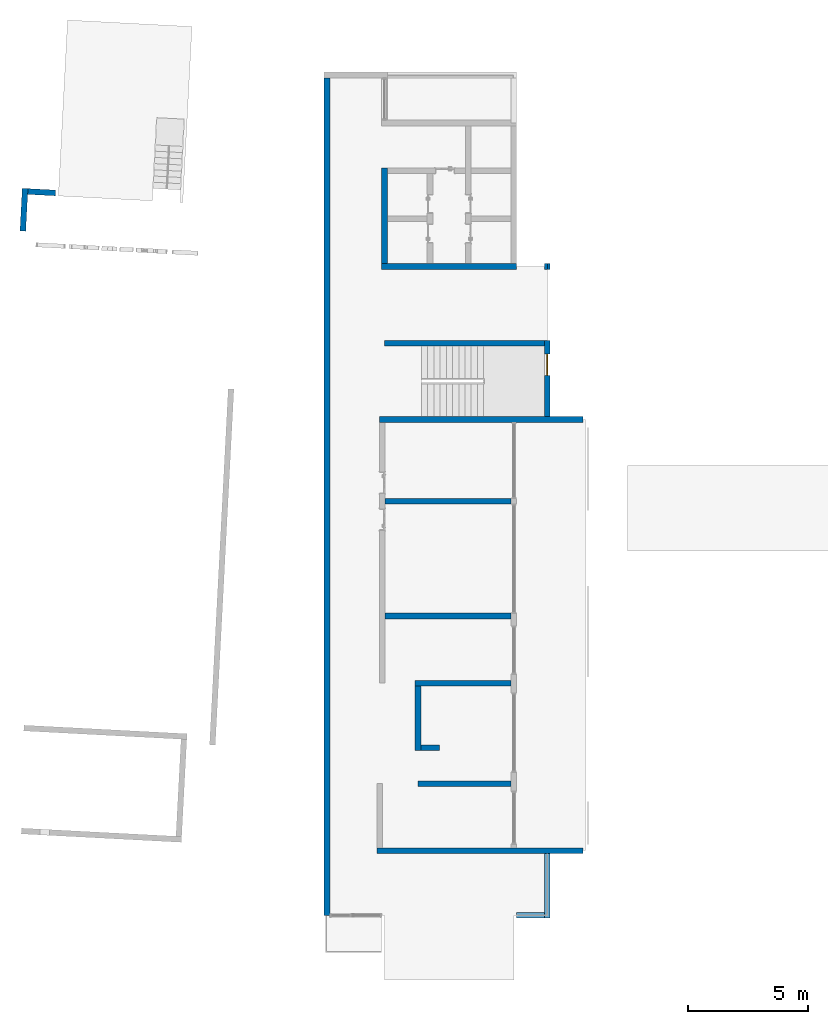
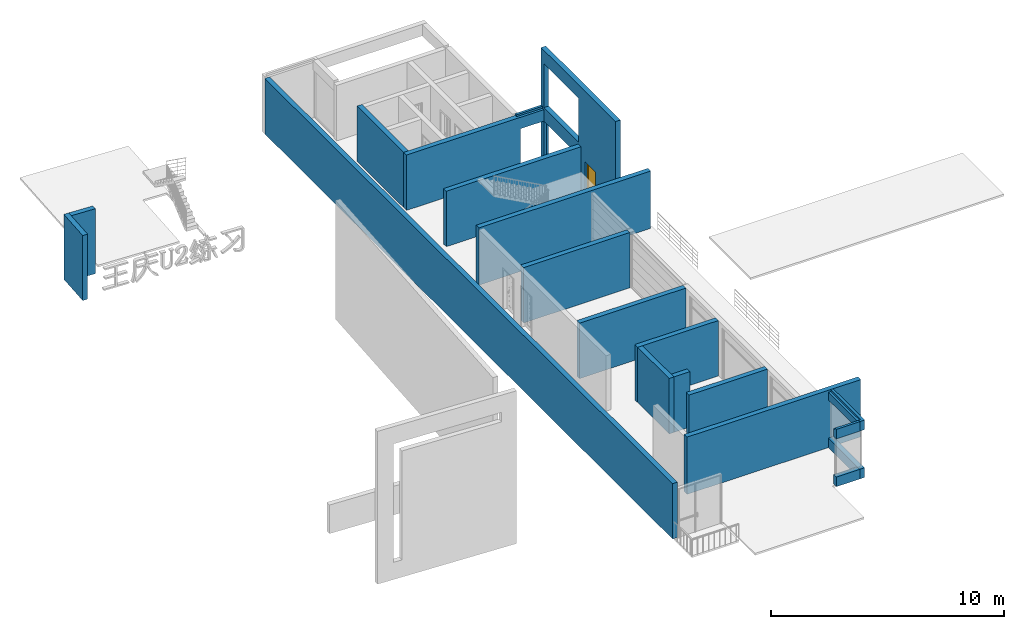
# One storey, part 6 of 16: 17 walls, 1 window, 8 openings.
"""IFC2X3 building model written with IfcOpenShell, lengths in millimetres."""

import ifcopenshell
import ifcopenshell.guid

model = None  # the IFC model being written
_history = None  # IfcOwnerHistory: only IFC2X3 demands one
_inside = {}  # id of a spatial element -> (the spatial element, [elements in it])
_under = {}  # id of a project, library or spatial element -> (it, [spatial elements below it])
_declared = {}  # id of a project -> (the project, [libraries it declares])
_typed = {}  # id of a type object -> (the type object, [elements of that type])
_made_of = {}  # id of a material, layer set ... -> (it, [elements and type objects made of it])


def new_model(schema):
    """Start an empty IFC model of exactly this schema.

    Asked for "IFC4X3", IfcOpenShell would pick the latest addendum, in which some entities
    have other attributes; the version numbers below select the first issue.
    IFC2X3 requires an IfcOwnerHistory on every rooted entity: one is made here for all.
    """
    global model, _history
    if schema == "IFC4X3":
        model = ifcopenshell.file(schema_version=(4, 3, 0, 0))
    else:
        model = ifcopenshell.file(schema=schema)
    _inside.clear()
    _under.clear()
    _declared.clear()
    _typed.clear()
    _made_of.clear()
    _history = None
    if model.schema == "IFC2X3":
        org = make("IfcOrganization", Name="unknown")
        user = make(
            "IfcPersonAndOrganization",
            ThePerson=make("IfcPerson", FamilyName="unknown"),
            TheOrganization=org,
        )
        app = make(
            "IfcApplication",
            ApplicationDeveloper=org,
            Version="unknown",
            ApplicationFullName="unknown",
            ApplicationIdentifier="unknown",
        )
        _history = make(
            "IfcOwnerHistory",
            OwningUser=user,
            OwningApplication=app,
            ChangeAction="ADDED",
            CreationDate=0,
        )
    return model


def make(cls, **values):
    """One entity of the class cls with the attributes given. An attribute that is None is left unset."""
    return model.create_entity(
        cls, **{name: value for name, value in values.items() if value is not None}
    )


def entity(cls, *values):
    """Any entity or typed value of the class cls, its attributes in the order of the schema. None: left unset."""
    e = model.create_entity(cls)
    for i, value in enumerate(values):
        if value is not None:
            e[i] = value
    return e


def rooted(cls, **values):
    """An entity with a GlobalId (a new one), such as an element, a storey or a relation."""
    return make(cls, GlobalId=ifcopenshell.guid.new(), OwnerHistory=_history, **values)


def si_unit(unit_type, name, prefix=None):
    """IfcSIUnit, for example si_unit("LENGTHUNIT", "METRE", prefix="MILLI")."""
    return make("IfcSIUnit", UnitType=unit_type, Prefix=prefix, Name=name)


def converted_unit(unit_type, name, factor, base, dimensions=None, offset=None):
    """IfcConversionBasedUnit, such as the inch: factor (a typed value) times the base unit."""
    return make(
        "IfcConversionBasedUnit"
        if offset is None
        else "IfcConversionBasedUnitWithOffset",
        ConversionOffset=offset,
        Dimensions=None
        if dimensions is None
        else entity("IfcDimensionalExponents", *dimensions),
        UnitType=unit_type,
        Name=name,
        ConversionFactor=make(
            "IfcMeasureWithUnit", ValueComponent=factor, UnitComponent=base
        ),
    )


def derived_unit(unit_type, elements):
    """IfcDerivedUnit: a product of units, each with its exponent."""
    return make(
        "IfcDerivedUnit",
        Elements=[
            make("IfcDerivedUnitElement", Unit=unit, Exponent=power)
            for unit, power in elements
        ],
        UnitType=unit_type,
    )


def assignment(units):
    """IfcUnitAssignment: the units of a project."""
    return None if units is None else make("IfcUnitAssignment", Units=units)


def point(xyz):
    """IfcCartesianPoint."""
    return None if xyz is None else make("IfcCartesianPoint", Coordinates=xyz)


def direction(xyz):
    """IfcDirection."""
    return None if xyz is None else make("IfcDirection", DirectionRatios=xyz)


def frame(location, z_axis=None, x_axis=None):
    """IfcAxis2Placement3D, a coordinate frame: its origin and axes. An axis left out is left unset."""
    return make(
        "IfcAxis2Placement3D",
        Location=point(location),
        Axis=direction(z_axis),
        RefDirection=direction(x_axis),
    )


def frame_2d(location, x_axis=None):
    """IfcAxis2Placement2D, a coordinate frame in the plane: its origin and x axis."""
    return make(
        "IfcAxis2Placement2D", Location=point(location), RefDirection=direction(x_axis)
    )


def origin():
    """The frame at (0, 0, 0) with its axes left unset."""
    return frame((0.0, 0.0, 0.0))


def place(relative_to, where):
    """IfcLocalPlacement: puts the frame where relative to a parent placement (None: the world)."""
    return make(
        "IfcLocalPlacement", PlacementRelTo=relative_to, RelativePlacement=where
    )


def context(
    kind, dimensions, precision=None, world=None, true_north=None, identifier=None
):
    """IfcGeometricRepresentationContext, for example the 3D "Model" context."""
    return make(
        "IfcGeometricRepresentationContext",
        ContextIdentifier=identifier,
        ContextType=kind,
        CoordinateSpaceDimension=dimensions,
        Precision=precision,
        WorldCoordinateSystem=world,
        TrueNorth=true_north,
    )


def subcontext(parent, identifier, kind, view, scale=None):
    """IfcGeometricRepresentationSubContext, for example "Body" below "Model"."""
    return make(
        "IfcGeometricRepresentationSubContext",
        ContextIdentifier=identifier,
        ContextType=kind,
        ParentContext=parent,
        TargetScale=scale,
        TargetView=view,
    )


def project(units=None, contexts=None):
    """IfcProject with its units and contexts."""
    return rooted(
        "IfcProject",
        Name="project",
        RepresentationContexts=contexts,
        UnitsInContext=assignment(units),
    )


def spatial(cls, under=None, at=None, **own):
    """A site, building, storey or space (cls), placed at a placement, below another one or the project."""
    s = rooted(cls, ObjectPlacement=at, **own)
    if under is not None:
        _under.setdefault(under.id(), (under, []))[1].append(s)
    return s


def polyline(points):
    """IfcPolyline through the points."""
    return make("IfcPolyline", Points=[point(p) for p in points])


def profile(cls, at=None, kind="AREA", **sizes):
    """A parametric profile (cls). Its sizes go by their IFC names, for example OverallWidth=200.0."""
    return make(cls, ProfileType=kind, Position=at, **sizes)


def rectangle(**sizes):
    """IfcRectangleProfileDef."""
    return profile("IfcRectangleProfileDef", **sizes)


def outline(outer, holes=None, kind="AREA"):
    """IfcArbitraryClosedProfileDef: a profile drawn as a closed curve; with holes, ...WithVoids."""
    if holes is None:
        return make("IfcArbitraryClosedProfileDef", ProfileType=kind, OuterCurve=outer)
    return make(
        "IfcArbitraryProfileDefWithVoids",
        ProfileType=kind,
        OuterCurve=outer,
        InnerCurves=holes,
    )


def extrude(swept, where, along, depth):
    """IfcExtrudedAreaSolid: the profile swept, set in the frame where, extruded along a direction by depth."""
    return make(
        "IfcExtrudedAreaSolid",
        SweptArea=swept,
        Position=where,
        ExtrudedDirection=direction(along),
        Depth=depth,
    )


def clip(a, b, op="DIFFERENCE"):
    """IfcBooleanClippingResult: the solid a cut by the half space b."""
    return make(
        "IfcBooleanClippingResult", Operator=op, FirstOperand=a, SecondOperand=b
    )


def bounded_halfspace(plane, agree, where, boundary):
    """IfcPolygonalBoundedHalfSpace: a half space limited to a polygon's prism."""
    return make(
        "IfcPolygonalBoundedHalfSpace",
        BaseSurface=make("IfcPlane", Position=plane),
        AgreementFlag=agree,
        Position=where,
        PolygonalBoundary=boundary,
    )


def faces_of(points, faces, orient=None, outer=None):
    """IfcFace entities. A face is a list of loops; a loop is a list of indices into points, from 0.

    orient and outer hold one flag for each loop. By default every Orientation is true, the
    first loop of a face is its IfcFaceOuterBound and the others are IfcFaceBound.
    """
    made = []
    for i, loops in enumerate(faces):
        bounds = []
        for j, loop in enumerate(loops):
            is_outer = j == 0 if outer is None else outer[i][j]
            bounds.append(
                make(
                    "IfcFaceOuterBound" if is_outer else "IfcFaceBound",
                    Bound=make("IfcPolyLoop", Polygon=[points[k] for k in loop]),
                    Orientation=True if orient is None else orient[i][j],
                )
            )
        made.append(make("IfcFace", Bounds=bounds))
    return made


def faceted_brep(points, faces, orient=None, outer=None, voids=None):
    """IfcFacetedBrep: a solid bounded by flat faces; with voids (closed shells), ...WithVoids."""
    shared = [point(p) for p in points]
    hull = make("IfcClosedShell", CfsFaces=faces_of(shared, faces, orient, outer))
    if voids is None:
        return make("IfcFacetedBrep", Outer=hull)
    return make(
        "IfcFacetedBrepWithVoids",
        Outer=hull,
        Voids=[
            make(cls, CfsFaces=faces_of(shared, fs, o, b)) for cls, fs, o, b in voids
        ],
    )


def shape(context_of_items, identifier, shape_type, items):
    """IfcShapeRepresentation: the items that make up one representation, for example the "Body"."""
    return make(
        "IfcShapeRepresentation",
        ContextOfItems=context_of_items,
        RepresentationIdentifier=identifier,
        RepresentationType=shape_type,
        Items=items,
    )


def source(mapping_origin, context_of_items, identifier, shape_type, items):
    """IfcRepresentationMap: a shape defined once, which mapped items show again and again."""
    return make(
        "IfcRepresentationMap",
        MappingOrigin=mapping_origin,
        MappedRepresentation=shape(context_of_items, identifier, shape_type, items),
    )


def transform(
    local_origin,
    x_axis=None,
    y_axis=None,
    z_axis=None,
    scale=None,
    scale2=None,
    scale3=None,
    uniform=True,
):
    """IfcCartesianTransformationOperator3D, or its non-uniform kind. x_axis, y_axis, z_axis: its Axis1, 2, 3."""
    if uniform:
        return make(
            "IfcCartesianTransformationOperator3D",
            Axis1=direction(x_axis),
            Axis2=direction(y_axis),
            LocalOrigin=point(local_origin),
            Scale=scale,
            Axis3=direction(z_axis),
        )
    return make(
        "IfcCartesianTransformationOperator3DnonUniform",
        Axis1=direction(x_axis),
        Axis2=direction(y_axis),
        LocalOrigin=point(local_origin),
        Scale=scale,
        Axis3=direction(z_axis),
        Scale2=scale2,
        Scale3=scale3,
    )


def mapped(mapping_source, mapping_target):
    """IfcMappedItem: shows the shape of a source again, moved by a transform."""
    return make(
        "IfcMappedItem", MappingSource=mapping_source, MappingTarget=mapping_target
    )


def material(Name=None, Category=None):
    """IfcMaterial."""
    return make("IfcMaterial", Name=Name, Category=Category)


def material_list(materials):
    """IfcMaterialList."""
    return make("IfcMaterialList", Materials=materials)


def layer(
    of_material, thickness, ventilated=None, Name=None, Category=None, Priority=None
):
    """IfcMaterialLayer: one layer of a wall or slab, of a material (None: an air gap)."""
    return make(
        "IfcMaterialLayer",
        Material=of_material,
        LayerThickness=thickness,
        IsVentilated=ventilated,
        Name=Name,
        Category=Category,
        Priority=Priority,
    )


def layer_set(layers, Name=None):
    """IfcMaterialLayerSet."""
    return make("IfcMaterialLayerSet", MaterialLayers=layers, LayerSetName=Name)


def layer_usage(for_layer_set, set_direction, sense, offset, extent=None):
    """IfcMaterialLayerSetUsage: how a layer set lies in its element."""
    return make(
        "IfcMaterialLayerSetUsage",
        ForLayerSet=for_layer_set,
        LayerSetDirection=set_direction,
        DirectionSense=sense,
        OffsetFromReferenceLine=offset,
        ReferenceExtent=extent,
    )


def made_of(thing, what):
    """Note that an element or type object is made of a material, layer set ...; save() writes the relation."""
    if what is not None:
        _made_of.setdefault(what.id(), (what, []))[1].append(thing)
    return thing


def type_object(cls, material=None, **own):
    """A type object (cls), such as IfcWallType, which elements share."""
    return made_of(rooted(cls, **own), material)


def type_shapes(of_type, sources):
    """Give a type object the sources (RepresentationMaps) that its elements show as mapped items."""
    of_type.RepresentationMaps = sources


def element(
    cls,
    number,
    at=None,
    inside=None,
    cuts=None,
    type_object=None,
    material=None,
    context=None,
    identifier="Body",
    shape_type=None,
    held_by="IfcProductDefinitionShape",
    body=None,
    shapes=None,
    **own,
):
    """One element of the class cls, such as IfcWall. Its Tag is "e" and its number.

    at: its placement. inside: the storey or other place that contains it. cuts: it is an
    opening in that element (IfcRelVoidsElement). A single representation is given by context,
    identifier, shape_type and body (its items); several are given by shapes. held_by: the class
    of the entity that holds the representations. save() writes the other relations.
    """
    e = rooted(cls, Tag="e%d" % number, ObjectPlacement=at, **own)
    if body is not None:
        shapes = [shape(context, identifier, shape_type, body)]
    if shapes is not None:
        e.Representation = make(held_by, Representations=shapes)
    if inside is not None:
        _inside.setdefault(inside.id(), (inside, []))[1].append(e)
    if cuts is not None:
        rooted(
            "IfcRelVoidsElement", RelatingBuildingElement=cuts, RelatedOpeningElement=e
        )
    if type_object is not None:
        _typed.setdefault(type_object.id(), (type_object, []))[1].append(e)
    return made_of(e, material)


def fill(opening, filler):
    """IfcRelFillsElement: the door or window that sits in an opening."""
    return rooted(
        "IfcRelFillsElement",
        RelatingOpeningElement=opening,
        RelatedBuildingElement=filler,
    )


def aggregate(whole, parts):
    """IfcRelAggregates: a whole, such as a stair, and the parts it consists of."""
    return rooted("IfcRelAggregates", RelatingObject=whole, RelatedObjects=parts)


def save(model, path):
    """Write the relations noted so far, then the file.

    IfcRelAggregates (storeys below a building ...), IfcRelContainedInSpatialStructure (elements
    in a storey), IfcRelDefinesByType, IfcRelAssociatesMaterial and IfcRelDeclares: one each for
    every whole, place, type object, material and project.
    """
    for whole, parts in _under.values():
        aggregate(whole, parts)
    for where, things in _inside.values():
        rooted(
            "IfcRelContainedInSpatialStructure",
            RelatedElements=things,
            RelatingStructure=where,
        )
    for kind, things in _typed.values():
        rooted("IfcRelDefinesByType", RelatedObjects=things, RelatingType=kind)
    for what, things in _made_of.values():
        rooted("IfcRelAssociatesMaterial", RelatedObjects=things, RelatingMaterial=what)
    for by, libraries in _declared.values():
        rooted("IfcRelDeclares", RelatingContext=by, RelatedDefinitions=libraries)
    model.write(path)


model = new_model("IFC2X3")

# Units and contexts
model_context = context("Model", 3, precision=0.01, world=origin(), true_north=direction((6.12303176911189e-17, 1.0)))
body_context = subcontext(model_context, "Body", "Model", "MODEL_VIEW")
ifc_project = project(units=[si_unit("LENGTHUNIT", "METRE", prefix="MILLI"), si_unit("AREAUNIT", "SQUARE_METRE"), si_unit("VOLUMEUNIT", "CUBIC_METRE"), converted_unit("PLANEANGLEUNIT", "DEGREE", entity("IfcRatioMeasure", 0.0174532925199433), si_unit("PLANEANGLEUNIT", "RADIAN"), dimensions=[0, 0, 0, 0, 0, 0, 0]), si_unit("MASSUNIT", "GRAM", prefix="KILO"), derived_unit("MASSDENSITYUNIT", [(si_unit("MASSUNIT", "GRAM", prefix="KILO"), 1), (si_unit("LENGTHUNIT", "METRE"), -3)]), si_unit("TIMEUNIT", "SECOND"), si_unit("FREQUENCYUNIT", "HERTZ"), si_unit("THERMODYNAMICTEMPERATUREUNIT", "DEGREE_CELSIUS"), derived_unit("THERMALTRANSMITTANCEUNIT", [(si_unit("MASSUNIT", "GRAM", prefix="KILO"), 1), (si_unit("THERMODYNAMICTEMPERATUREUNIT", "KELVIN"), -1), (si_unit("TIMEUNIT", "SECOND"), -3)]), derived_unit("VOLUMETRICFLOWRATEUNIT", [(si_unit("LENGTHUNIT", "METRE"), 3), (si_unit("TIMEUNIT", "SECOND"), -1)]), si_unit("ELECTRICCURRENTUNIT", "AMPERE"), si_unit("ELECTRICVOLTAGEUNIT", "VOLT"), si_unit("POWERUNIT", "WATT"), si_unit("FORCEUNIT", "NEWTON", prefix="KILO"), si_unit("ILLUMINANCEUNIT", "LUX"), si_unit("LUMINOUSFLUXUNIT", "LUMEN"), si_unit("LUMINOUSINTENSITYUNIT", "CANDELA"), derived_unit("USERDEFINED", [(si_unit("MASSUNIT", "GRAM", prefix="KILO"), -1), (si_unit("LENGTHUNIT", "METRE"), -2), (si_unit("TIMEUNIT", "SECOND"), 3), (si_unit("LUMINOUSFLUXUNIT", "LUMEN"), 1)]), derived_unit("LINEARVELOCITYUNIT", [(si_unit("LENGTHUNIT", "METRE"), 1), (si_unit("TIMEUNIT", "SECOND"), -1)]), si_unit("PRESSUREUNIT", "PASCAL"), derived_unit("USERDEFINED", [(si_unit("LENGTHUNIT", "METRE"), -2), (si_unit("MASSUNIT", "GRAM", prefix="KILO"), 1), (si_unit("TIMEUNIT", "SECOND"), -2)])], contexts=[model_context])

# Site, building, storey
site_placement = place(None, origin())
site = spatial("IfcSite", under=ifc_project, at=site_placement, Name="表面", CompositionType="ELEMENT")
building_placement = place(site_placement, origin())
building = spatial("IfcBuilding", under=site, at=building_placement, CompositionType="ELEMENT")
storey_placement = place(building_placement, frame((0.0, 0.0, 3000.0)))
storey = spatial("IfcBuildingStorey", under=building, at=storey_placement, Name="2F", CompositionType="ELEMENT", Elevation=3000.00000000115)

# Wall, opening
ifc_material_1 = material(Name="白色涂料")
ifc_layer_1 = layer(ifc_material_1, 10.0)
ifc_material_2 = material(Name="默认墙")
ifc_layer_2 = layer(ifc_material_2, 220.0)
ifc_layer_3 = layer(ifc_material_1, 10.0)
ifc_layer_set = layer_set([ifc_layer_1, ifc_layer_2, ifc_layer_3], Name="基本墙:粉刷墙240")
ifc_layer_usage_1 = layer_usage(ifc_layer_set, "AXIS2", "NEGATIVE", 120.0)
wall_type = type_object("IfcWallType", Name="基本墙:粉刷墙240", PredefinedType="STANDARD", material=ifc_layer_set)
wall_1_placement = place(storey_placement, frame((-5110.24991264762, -2316.868426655, 0.0), z_axis=(0.0, 0.0, 1.0), x_axis=(-1.0, 0.0, 0.0)))
wall_1 = element("IfcWallStandardCase", 1, at=wall_1_placement, inside=storey, type_object=wall_type, material=ifc_layer_usage_1, Name="基本墙:粉刷墙240", ObjectType="基本墙:粉刷墙240", context=body_context, shape_type="Clipping", body=[
    clip(clip(clip(clip(extrude(rectangle(XDim=7040.00000000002, YDim=240.0, at=frame_2d((3520.00000000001, 7.8159700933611e-14), x_axis=(-1.0, 0.0))), origin(), (0.0, 0.0, 1.0), 3000.0), bounded_halfspace(frame((1520.0, -120.0, 2900.0), z_axis=(0.0, 0.0, -1.0), x_axis=(0.0, 1.0, 0.0)), True, frame((1520.0, -120.0, 2900.0)), polyline([(0.0, 0.0), (1780.0, 0.0), (2020.0, 0.0), (3380.0, 0.0), (3620.0, 0.0), (5280.0, 0.0), (5520.0, 0.0), (5520.0, 240.0), (0.0, 240.0), (-1400.0, 240.0), (-1400.0, 120.0), (0.0, 120.0), (0.0, 0.0)]))), bounded_halfspace(frame((120.0, 120.0, 3000.0), z_axis=(0.0, 0.0, -1.0), x_axis=(0.0, -1.0, 0.0)), True, frame((120.0, 120.0, 3000.0)), polyline([(0.0, 0.0), (-120.0, 0.0), (-120.0, -120.0), (0.0, -120.0), (0.0, 0.0)]))), bounded_halfspace(frame((1520.0, -120.0, 3000.0), z_axis=(0.0, 0.0, -1.0), x_axis=(0.0, -1.0, 0.0)), True, frame((1520.0, -120.0, 3000.0)), polyline([(0.0, 0.0), (0.0, 120.0), (-1400.0, 120.0), (-1520.0, 120.0), (-1520.0, 0.0), (-1280.0, 0.0), (-120.0, 0.0), (0.0, 0.0)]))), bounded_halfspace(frame((1520.0, -120.0, 2900.0), z_axis=(0.0, 0.0, -1.0), x_axis=(0.0, 1.0, 0.0)), True, frame((1520.0, -120.0, 2900.0)), polyline([(0.0, 0.0), (1780.0, 0.0), (2020.0, 0.0), (3380.0, 0.0), (3620.0, 0.0), (5280.0, 0.0), (5520.0, 0.0), (5520.0, 240.0), (0.0, 240.0), (-1400.0, 240.0), (-1400.0, 120.0), (0.0, 120.0), (0.0, 0.0)]))),
])
opening_1_placement = place(wall_1_placement, origin())
element("IfcOpeningElement", 2, at=opening_1_placement, cuts=wall_1, Name="基本墙:粉刷墙240", ObjectType="Opening", context=body_context, shape_type="SweptSolid", body=[
    extrude(rectangle(XDim=4300.0, YDim=1280.00000000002, at=frame_2d((-5.6843418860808e-13, 0.0), x_axis=(0.0, 1.0))), frame((760.0, -272.4, 150.0), z_axis=(0.0, 1.0, 0.0), x_axis=(-1.0, 0.0, 0.0)), (0.0, 0.0, 1.0), 544.8),
])

# Wall
ifc_layer_usage_2 = layer_usage(ifc_layer_set, "AXIS2", "NEGATIVE", 120.0)
wall_2_placement = place(storey_placement, frame((-12030.2499126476, -2196.86842665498, 0.0), z_axis=(0.0, 0.0, 1.0), x_axis=(0.0, 1.0, 0.0)))
element("IfcWallStandardCase", 3, at=wall_2_placement, inside=storey, type_object=wall_type, material=ifc_layer_usage_2, Name="基本墙:粉刷墙240", ObjectType="基本墙:粉刷墙240", context=body_context, shape_type="Clipping", body=[
    clip(extrude(rectangle(XDim=4000.0, YDim=240.000000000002, at=frame_2d((2000.0, 0.0), x_axis=(-1.0, 0.0))), origin(), (0.0, 0.0, 1.0), 2900.0), bounded_halfspace(frame((0.0, -120.0, 2900.0), z_axis=(0.0, 0.0, -1.0), x_axis=(-1.0, 0.0, 0.0)), True, frame((0.0, -120.0, 2900.0)), polyline([(0.0, 0.0), (1760.0, 0.0), (2000.0, 0.0), (3760.0, 0.0), (4000.0, 0.0), (4000.0, 240.0), (0.0, 240.0), (0.0, 0.0)]))),
])

# Wall, openings, window
ifc_layer_usage_3 = layer_usage(ifc_layer_set, "AXIS2", "NEGATIVE", 120.0)
wall_3_placement = place(storey_placement, frame((-5230.24991264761, -2196.868426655, 0.0), z_axis=(0.0, 0.0, 1.0), x_axis=(0.0, -1.0, 0.0)))
wall_3 = element("IfcWallStandardCase", 4, at=wall_3_placement, inside=storey, type_object=wall_type, material=ifc_layer_usage_3, Name="基本墙:粉刷墙240", ObjectType="基本墙:粉刷墙240", context=body_context, shape_type="SweptSolid", body=[
    extrude(rectangle(XDim=6390.97748632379, YDim=240.0, at=frame_2d((3195.4887431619, -2.1316282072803e-14), x_axis=(1.0, 0.0))), origin(), (0.0, 0.0, 1.0), 6000.0),
])
opening_2_placement = place(wall_3_placement, origin())
element("IfcOpeningElement", 5, at=opening_2_placement, cuts=wall_3, Name="基本墙:粉刷墙240", ObjectType="Opening", context=body_context, shape_type="SweptSolid", body=[
    extrude(rectangle(XDim=4300.0, YDim=2960.0, at=frame_2d((0.0, 2.27373675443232e-13), x_axis=(1.0, 0.0))), frame((1720.0, -272.399999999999, 150.0), z_axis=(0.0, 1.0, 0.0), x_axis=(0.0, 0.0, 1.0)), (0.0, 0.0, 1.0), 544.8),
])
opening_3_placement = place(wall_3_placement, origin())
element("IfcOpeningElement", 6, at=opening_3_placement, cuts=wall_3, Name="基本墙:粉刷墙240", ObjectType="Opening", context=body_context, shape_type="SweptSolid", body=[
    extrude(rectangle(XDim=2300.0, YDim=240.0, at=frame_2d((0.0, 0.0), x_axis=(0.0, 1.0))), frame((120.0, -1280.0, 4250.0), z_axis=(0.0, 1.0, 0.0), x_axis=(1.0, 0.0, 0.0)), (0.0, 0.0, 1.0), 1160.0),
])
opening_4_placement = place(wall_3_placement, origin())
element("IfcOpeningElement", 7, at=opening_4_placement, cuts=wall_3, Name="基本墙:粉刷墙240", ObjectType="Opening", context=body_context, shape_type="SweptSolid", body=[
    extrude(rectangle(XDim=2300.0, YDim=2960.0, at=frame_2d((-5.6843418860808e-13, -3.41060513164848e-13), x_axis=(1.0, 0.0))), frame((1720.0, -272.399999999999, 4150.0), z_axis=(0.0, 1.0, 0.0), x_axis=(0.0, 0.0, 1.0)), (0.0, 0.0, 1.0), 544.8),
])
opening_5_placement = place(wall_3_placement, frame((3770.0, -120.0, 1.15487779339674e-09)))
opening_5 = element("IfcOpeningElement", 8, at=opening_5_placement, cuts=wall_3, Name="C0615:C0923:1", ObjectType="Opening", context=body_context, shape_type="SweptSolid", body=[
    extrude(rectangle(XDim=2300.0, YDim=900.0, at=frame_2d((1150.0, 450.0), x_axis=(1.0, 0.0))), frame((0.0, 0.0, 0.0), z_axis=(0.0, 1.0, 0.0), x_axis=(0.0, 0.0, 1.0)), (0.0, 0.0, 1.0), 240.0),
])
ifc_material_3 = material(Name="竖梃")
ifc_material_4 = material(Name="玻璃")
ifc_material_list_1 = material_list([ifc_material_3, ifc_material_4])
ifc_material_list_2 = material_list([ifc_material_3, ifc_material_4])
window_style = type_object("IfcWindowStyle", Name="C0923", ConstructionType="NOTDEFINED", OperationType="NOTDEFINED", ParameterTakesPrecedence=False, Sizeable=False, material=ifc_material_list_2)
shared_shape = source(origin(), body_context, "Body", "SweptSolid", [
    extrude(outline(polyline([(-1150.0, -450.0), (1150.0, -450.0), (1150.0, 450.0), (-1150.0, 450.0), (-1150.0, -450.0)]), holes=[polyline([(1090.0, -390.0), (-1090.0, -390.0), (-1090.0, 390.0), (1090.0, 390.0), (1090.0, -390.0)])]), frame((450.0, 86.6666666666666, 1150.0), z_axis=(0.0, 1.0, 0.0), x_axis=(0.0, 0.0, -1.0)), (0.0, 0.0, 1.0), 66.6666666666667),
    extrude(rectangle(XDim=27.7162458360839, YDim=779.999999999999, at=frame_2d((0.0, 2.8421709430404e-14), x_axis=(1.0, 0.0))), frame((450.0, 142.490721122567, 60.0), z_axis=(0.0, 0.0, 1.0), x_axis=(0.0, 1.0, 0.0)), (0.0, 0.0, 1.0), 2180.0),
])
type_shapes(window_style, [shared_shape])
window_placement = place(opening_5_placement, frame((0.0, 0.0, -1.15505827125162e-09)))
window = element("IfcWindow", 9, at=window_placement, inside=storey, type_object=window_style, material=ifc_material_list_1, Name="C0615:C0923", ObjectType="C0923", OverallHeight=2300.0, OverallWidth=900.0, context=body_context, shape_type="MappedRepresentation", body=[
    mapped(shared_shape, transform((0.0, 0.0, 0.0), scale=1.0)),
])
fill(opening_5, window)

# Walls
ifc_layer_usage_4 = layer_usage(ifc_layer_set, "AXIS2", "NEGATIVE", 120.0)
wall_4_placement = place(storey_placement, frame((-5350.24991264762, -5516.868426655, 0.0), z_axis=(0.0, 0.0, 1.0), x_axis=(-1.0, 0.0, 0.0)))
element("IfcWallStandardCase", 10, at=wall_4_placement, inside=storey, type_object=wall_type, material=ifc_layer_usage_4, Name="基本墙:粉刷墙240", ObjectType="基本墙:粉刷墙240", context=body_context, shape_type="Clipping", body=[
    clip(extrude(rectangle(XDim=6680.00000000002, YDim=240.0, at=frame_2d((3340.00000000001, -1.91846538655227e-13), x_axis=(-1.0, 0.0))), origin(), (0.0, 0.0, 1.0), 2900.0), bounded_halfspace(frame((0.0, -120.0, 2900.0), z_axis=(0.0, 0.0, -1.0), x_axis=(0.0, 1.0, 0.0)), True, frame((0.0, -120.0, 2900.0)), polyline([(0.0, 0.0), (6680.0, 0.0), (6680.0, 240.0), (0.0, 240.0), (0.0, 0.0)]))),
])
ifc_layer_usage_5 = layer_usage(ifc_layer_set, "AXIS2", "NEGATIVE", 120.0)
wall_5_placement = place(storey_placement, frame((-12250.2499126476, -8707.84591297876, 0.0)))
element("IfcWallStandardCase", 11, at=wall_5_placement, inside=storey, type_object=wall_type, material=ifc_layer_usage_5, Name="基本墙:粉刷墙240", ObjectType="基本墙:粉刷墙240", context=body_context, shape_type="SweptSolid", body=[
    extrude(rectangle(XDim=8500.0, YDim=240.0, at=frame_2d((4250.0, 0.0), x_axis=(-1.0, 0.0))), origin(), (0.0, 0.0, 1.0), 3000.0),
])
ifc_layer_usage_6 = layer_usage(ifc_layer_set, "AXIS2", "NEGATIVE", 120.0)
wall_6_placement = place(storey_placement, frame((-12010.2499126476, -12116.868426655, 0.0)))
element("IfcWallStandardCase", 12, at=wall_6_placement, inside=storey, type_object=wall_type, material=ifc_layer_usage_6, Name="基本墙:粉刷墙240", ObjectType="基本墙:粉刷墙240", context=body_context, shape_type="Clipping", body=[
    clip(extrude(rectangle(XDim=5260.0, YDim=240.000000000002, at=frame_2d((2630.0, -3.83693077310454e-13), x_axis=(-1.0, 0.0))), origin(), (0.0, 0.0, 1.0), 2900.0), bounded_halfspace(frame((0.0, -120.0, 2900.0), z_axis=(0.0, 0.0, -1.0), x_axis=(0.0, -1.0, 0.0)), True, frame((0.0, -120.0, 2900.0)), polyline([(0.0, 0.0), (5260.0, 0.0), (5260.0, 240.0), (0.0, 240.0), (0.0, 0.0)]))),
])
ifc_layer_usage_7 = layer_usage(ifc_layer_set, "AXIS2", "NEGATIVE", 120.0)
wall_7_placement = place(storey_placement, frame((-12010.2499126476, -16916.868426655, 0.0)))
element("IfcWallStandardCase", 13, at=wall_7_placement, inside=storey, type_object=wall_type, material=ifc_layer_usage_7, Name="基本墙:粉刷墙240", ObjectType="基本墙:粉刷墙240", context=body_context, shape_type="Clipping", body=[
    clip(extrude(rectangle(XDim=5260.0, YDim=240.000000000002, at=frame_2d((2630.0, -3.83693077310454e-13), x_axis=(-1.0, 0.0))), origin(), (0.0, 0.0, 1.0), 2900.0), bounded_halfspace(frame((0.0, -120.0, 2900.0), z_axis=(0.0, 0.0, -1.0), x_axis=(0.0, -1.0, 0.0)), True, frame((0.0, -120.0, 2900.0)), polyline([(0.0, 0.0), (5260.0, 0.0), (5260.0, 240.0), (0.0, 240.0), (0.0, 0.0)]))),
])
ifc_layer_usage_8 = layer_usage(ifc_layer_set, "AXIS2", "NEGATIVE", 120.0)
wall_8_placement = place(storey_placement, frame((-6750.24991264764, -19716.868426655, 0.0), z_axis=(0.0, 0.0, 1.0), x_axis=(-1.0, 0.0, 0.0)))
element("IfcWallStandardCase", 14, at=wall_8_placement, inside=storey, type_object=wall_type, material=ifc_layer_usage_8, Name="基本墙:粉刷墙240", ObjectType="基本墙:粉刷墙240", context=body_context, shape_type="Clipping", body=[
    clip(extrude(rectangle(XDim=4000.0, YDim=239.999999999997, at=frame_2d((2000.0, 0.0), x_axis=(-1.0, 0.0))), origin(), (0.0, 0.0, 1.0), 2900.0), bounded_halfspace(frame((0.0, -120.0, 2900.0), z_axis=(0.0, 0.0, -1.0), x_axis=(0.0, 1.0, 0.0)), True, frame((0.0, -120.0, 2900.0)), polyline([(0.0, 0.0), (4000.0, 0.0), (4000.0, 240.0), (3760.0, 240.0), (0.0, 240.0), (0.0, 0.0)]))),
])
ifc_layer_usage_9 = layer_usage(ifc_layer_set, "AXIS2", "NEGATIVE", 120.0)
wall_9_placement = place(storey_placement, frame((-10630.2499126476, -19836.868426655, 0.0), z_axis=(0.0, 0.0, 1.0), x_axis=(0.0, -1.0, 0.0)))
element("IfcWallStandardCase", 15, at=wall_9_placement, inside=storey, type_object=wall_type, material=ifc_layer_usage_9, Name="基本墙:粉刷墙240", ObjectType="基本墙:粉刷墙240", context=body_context, shape_type="Clipping", body=[
    clip(extrude(rectangle(XDim=2700.00000000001, YDim=240.000000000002, at=frame_2d((1350.0, 0.0), x_axis=(-1.0, 0.0))), origin(), (0.0, 0.0, 1.0), 2900.0), bounded_halfspace(frame((0.0, -120.0, 2900.0), z_axis=(0.0, 0.0, -1.0), x_axis=(1.0, 0.0, 0.0)), True, frame((0.0, -120.0, 2900.0)), polyline([(0.0, 0.0), (2700.0, 0.0), (2700.0, 240.0), (2460.0, 240.0), (0.0, 240.0), (0.0, 0.0)]))),
])
ifc_layer_usage_10 = layer_usage(ifc_layer_set, "AXIS2", "NEGATIVE", 120.0)
wall_10_placement = place(storey_placement, frame((-10510.2499126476, -22416.868426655, 0.0)))
element("IfcWallStandardCase", 16, at=wall_10_placement, inside=storey, type_object=wall_type, material=ifc_layer_usage_10, Name="基本墙:粉刷墙240", ObjectType="基本墙:粉刷墙240", context=body_context, shape_type="Clipping", body=[
    clip(extrude(rectangle(XDim=779.999999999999, YDim=239.999999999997, at=frame_2d((390.0, 0.0), x_axis=(-1.0, 0.0))), origin(), (0.0, 0.0, 1.0), 2900.0), bounded_halfspace(frame((0.0, -120.0, 2900.0), z_axis=(0.0, 0.0, -1.0), x_axis=(0.0, -1.0, 0.0)), True, frame((0.0, -120.0, 2900.0)), polyline([(0.0, 0.0), (780.0, 0.0), (780.0, 240.0), (0.0, 240.0), (0.0, 0.0)]))),
])
ifc_layer_usage_11 = layer_usage(ifc_layer_set, "AXIS2", "NEGATIVE", 120.0)
wall_11_placement = place(storey_placement, frame((-6750.24991264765, -23916.868426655, 0.0), z_axis=(0.0, 0.0, 1.0), x_axis=(-1.0, 0.0, 0.0)))
element("IfcWallStandardCase", 17, at=wall_11_placement, inside=storey, type_object=wall_type, material=ifc_layer_usage_11, Name="基本墙:粉刷墙240", ObjectType="基本墙:粉刷墙240", context=body_context, shape_type="Clipping", body=[
    clip(extrude(rectangle(XDim=3879.99999999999, YDim=239.999999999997, at=frame_2d((1940.0, -1.91846538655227e-13), x_axis=(-1.0, 0.0))), origin(), (0.0, 0.0, 1.0), 2900.0), bounded_halfspace(frame((0.0, -120.0, 2900.0), z_axis=(0.0, 0.0, -1.0), x_axis=(0.0, 1.0, 0.0)), True, frame((0.0, -120.0, 2900.0)), polyline([(0.0, 0.0), (3880.0, 0.0), (3880.0, 240.0), (0.0, 240.0), (0.0, 0.0)]))),
])

# Wall, opening
ifc_layer_usage_12 = layer_usage(ifc_layer_set, "AXIS2", "NEGATIVE", 120.0)
wall_12_placement = place(storey_placement, frame((-12350.2499126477, -26716.868426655, 0.0)))
wall_12 = element("IfcWallStandardCase", 18, at=wall_12_placement, inside=storey, type_object=wall_type, material=ifc_layer_usage_12, Name="基本墙:粉刷墙240", ObjectType="基本墙:粉刷墙240", context=body_context, shape_type="SweptSolid", body=[
    extrude(rectangle(XDim=8600.0, YDim=239.999999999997, at=frame_2d((4300.0, 0.0), x_axis=(-1.0, 0.0))), origin(), (0.0, 0.0, 1.0), 3000.0),
])
opening_6_placement = place(wall_12_placement, frame((5840.0, -2820.0, 500.0)))
element("IfcOpeningElement", 19, at=opening_6_placement, cuts=wall_12, Name="基本墙:粉刷墙240", ObjectType="Opening", context=body_context, shape_type="Brep", body=[
    faceted_brep([(1160.0, 2700.0, 0.0), (1160.0, 2700.0, 2000.0), (1400.0, 2700.0, 2000.0), (1400.0, 2700.0, 0.0), (1160.0, 240.0, 0.0), (1160.0, 240.0, 2000.0), (0.0, 240.0, 2000.0), (0.0, 0.0, 2000.0), (1400.0, 0.0, 2000.0), (1400.0, 0.0, 0.0), (0.0, 0.0, 0.0), (0.0, 240.0, 0.0)], [[[0, 1, 2, 3]], [[1, 0, 4, 5]], [[2, 1, 5, 6, 7, 8]], [[3, 2, 8, 9]], [[0, 3, 9, 10, 11, 4]], [[11, 10, 7, 6]], [[5, 4, 11, 6]], [[9, 8, 7, 10]]]),
])

ifc_layer_usage_13 = layer_usage(ifc_layer_set, "AXIS2", "NEGATIVE", 120.0)
wall_13_placement = place(storey_placement, frame((-5230.24991264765, -26836.868426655, 0.0), z_axis=(0.0, 0.0, 1.0), x_axis=(0.0, -1.0, 0.0)))
wall_13 = element("IfcWallStandardCase", 20, at=wall_13_placement, inside=storey, type_object=wall_type, material=ifc_layer_usage_13, Name="基本墙:粉刷墙240", ObjectType="基本墙:粉刷墙240", context=body_context, shape_type="Clipping", body=[
    clip(clip(clip(clip(extrude(rectangle(XDim=2700.0, YDim=240.0, at=frame_2d((1350.0, 2.8421709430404e-14), x_axis=(-1.0, 0.0))), origin(), (0.0, 0.0, 1.0), 3000.0), bounded_halfspace(frame((0.0, -120.0, 2900.0), z_axis=(0.0, 0.0, -1.0), x_axis=(1.0, 0.0, 0.0)), True, frame((0.0, -120.0, 2900.0)), polyline([(0.0, 0.0), (2460.0, 0.0), (2580.0, 0.0), (2580.0, 120.0), (0.0, 120.0), (0.0, 0.0)]))), bounded_halfspace(frame((2700.0, 0.0, 3000.0), z_axis=(0.0, 0.0, -1.0), x_axis=(0.0, -1.0, 0.0)), True, frame((2700.0, 0.0, 3000.0)), polyline([(0.0, 0.0), (0.0, 120.0), (-2700.0, 120.0), (-2700.0, 0.0), (-120.0, 0.0), (0.0, 0.0)]))), bounded_halfspace(frame((2580.0, -120.0, 3000.0), z_axis=(0.0, 0.0, -1.0), x_axis=(0.0, -1.0, 0.0)), True, frame((2580.0, -120.0, 3000.0)), polyline([(0.0, 0.0), (120.0, 0.0), (120.0, 120.0), (0.0, 120.0), (0.0, 0.0)]))), bounded_halfspace(frame((0.0, -120.0, 2900.0), z_axis=(0.0, 0.0, -1.0), x_axis=(1.0, 0.0, 0.0)), True, frame((0.0, -120.0, 2900.0)), polyline([(0.0, 0.0), (2460.0, 0.0), (2580.0, 0.0), (2580.0, 120.0), (0.0, 120.0), (0.0, 0.0)]))),
])
opening_7_placement = place(wall_13_placement, frame((2700.0, -1280.0, 500.0), z_axis=(0.0, 0.0, 1.0), x_axis=(0.0, 1.0, 0.0)))
element("IfcOpeningElement", 21, at=opening_7_placement, cuts=wall_13, Name="基本墙:粉刷墙240", ObjectType="Opening", context=body_context, shape_type="Brep", body=[
    faceted_brep([(1160.0, 2700.0, 0.0), (1160.0, 2700.0, 2000.0), (1400.0, 2700.0, 2000.0), (1400.0, 2700.0, 0.0), (1160.0, 240.0, 0.0), (1160.0, 240.0, 2000.0), (0.0, 240.0, 2000.0), (0.0, 0.0, 2000.0), (1400.0, 0.0, 2000.0), (1400.0, 0.0, 0.0), (0.0, 0.0, 0.0), (0.0, 240.0, 0.0)], [[[0, 1, 2, 3]], [[1, 0, 4, 5]], [[2, 1, 5, 6, 7, 8]], [[3, 2, 8, 9]], [[0, 3, 9, 10, 11, 4]], [[11, 10, 7, 6]], [[5, 4, 11, 6]], [[9, 8, 7, 10]]]),
])

ifc_layer_usage_14 = layer_usage(ifc_layer_set, "AXIS2", "NEGATIVE", 120.0)
wall_14_placement = place(storey_placement, frame((-5350.24991264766, -29416.868426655, 0.0), z_axis=(0.0, 0.0, 1.0), x_axis=(-1.0, 0.0, 0.0)))
wall_14 = element("IfcWallStandardCase", 22, at=wall_14_placement, inside=storey, type_object=wall_type, material=ifc_layer_usage_14, Name="基本墙:粉刷墙240", ObjectType="基本墙:粉刷墙240", context=body_context, shape_type="Clipping", body=[
    clip(clip(clip(extrude(rectangle(XDim=1160.0, YDim=239.999999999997, at=frame_2d((579.999999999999, -3.69482222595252e-13), x_axis=(-1.0, 0.0))), origin(), (0.0, 0.0, 1.0), 3000.0), bounded_halfspace(frame((0.0, -120.0, 2900.0), z_axis=(0.0, 0.0, -1.0), x_axis=(0.0, 1.0, 0.0)), True, frame((0.0, -120.0, 2900.0)), polyline([(0.0, 0.0), (1160.0, 0.0), (1160.0, 120.0), (0.0, 120.0), (0.0, 0.0)]))), bounded_halfspace(frame((1160.0, 0.0, 3000.0), z_axis=(0.0, 0.0, -1.0), x_axis=(0.0, -1.0, 0.0)), True, frame((1160.0, 0.0, 3000.0)), polyline([(0.0, 0.0), (0.0, 120.0), (-1160.0, 120.0), (-1160.0, 0.0), (0.0, 0.0)]))), bounded_halfspace(frame((0.0, -120.0, 2900.0), z_axis=(0.0, 0.0, -1.0), x_axis=(0.0, 1.0, 0.0)), True, frame((0.0, -120.0, 2900.0)), polyline([(0.0, 0.0), (1160.0, 0.0), (1160.0, 120.0), (0.0, 120.0), (0.0, 0.0)]))),
])
opening_8_placement = place(wall_14_placement, frame((1160.0, 120.0, 500.0)))
element("IfcOpeningElement", 23, at=opening_8_placement, cuts=wall_14, Name="基本墙:粉刷墙240", ObjectType="Opening", context=body_context, shape_type="Brep", body=[
    faceted_brep([(-1160.0, -2700.0, 0.0), (-1160.0, -2700.0, 2000.0), (-1400.0, -2700.0, 2000.0), (-1400.0, -2700.0, 0.0), (-1160.0, -240.0, 0.0), (-1160.0, -240.0, 2000.0), (0.0, -240.0, 2000.0), (0.0, 0.0, 2000.0), (-1400.0, 0.0, 2000.0), (-1400.0, 0.0, 0.0), (0.0, 0.0, 0.0), (0.0, -240.0, 0.0)], [[[0, 1, 2, 3]], [[1, 0, 4, 5]], [[2, 1, 5, 6, 7, 8]], [[3, 2, 8, 9]], [[0, 3, 9, 10, 11, 4]], [[11, 10, 7, 6]], [[5, 4, 11, 6]], [[9, 8, 7, 10]]]),
])

# Walls
ifc_layer_usage_15 = layer_usage(ifc_layer_set, "AXIS2", "NEGATIVE", 120.0)
wall_15_placement = place(storey_placement, frame((-14430.2499126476, 5563.13157334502, 0.0), z_axis=(0.0, 0.0, 1.0), x_axis=(0.0, -1.0, 0.0)))
element("IfcWallStandardCase", 24, at=wall_15_placement, inside=storey, type_object=wall_type, material=ifc_layer_usage_15, Name="基本墙:粉刷墙240", ObjectType="基本墙:粉刷墙240", context=body_context, shape_type="Clipping", body=[
    clip(extrude(rectangle(XDim=34980.0, YDim=240.000000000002, at=frame_2d((17490.0, -9.9475983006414e-14), x_axis=(-1.0, 0.0))), origin(), (0.0, 0.0, 1.0), 2900.0), bounded_halfspace(frame((34980.0, 0.0, 2900.0), z_axis=(0.0, 0.0, -1.0), x_axis=(1.0, 0.0, 0.0)), True, frame((34980.0, 0.0, 2900.0)), polyline([(0.0, 0.0), (0.0, 120.0), (-34980.0, 120.0), (-34980.0, 0.0), (0.0, 0.0)]))),
])
ifc_layer_usage_16 = layer_usage(ifc_layer_set, "AXIS2", "NEGATIVE", 120.0)
wall_16_placement = place(storey_placement, frame((-27137.9648508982, -838.111483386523, -400.0), z_axis=(0.0, 0.0, 1.0), x_axis=(0.0523359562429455, 0.998629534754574, 0.0)))
element("IfcWallStandardCase", 25, at=wall_16_placement, inside=storey, type_object=wall_type, material=ifc_layer_usage_16, Name="基本墙:粉刷墙240", ObjectType="基本墙:粉刷墙240", context=body_context, shape_type="SweptSolid", body=[
    extrude(rectangle(XDim=1785.0, YDim=240.0, at=frame_2d((892.5, 1.16529008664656e-12), x_axis=(-1.0, 0.0))), origin(), (0.0, 0.0, 1.0), 3400.0),
])
ifc_layer_usage_17 = layer_usage(ifc_layer_set, "AXIS2", "NEGATIVE", 120.0)
wall_17_placement = place(storey_placement, frame((-25772.5796792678, 757.61666798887, -400.0), z_axis=(0.0, 0.0, 1.0), x_axis=(-0.998629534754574, 0.0523359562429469, 0.0)))
element("IfcWallStandardCase", 26, at=wall_17_placement, inside=storey, type_object=wall_type, material=ifc_layer_usage_17, Name="基本墙:粉刷墙240", ObjectType="基本墙:粉刷墙240", context=body_context, shape_type="SweptSolid", body=[
    extrude(rectangle(XDim=1160.0, YDim=240.0, at=frame_2d((580.0, -7.105427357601e-15), x_axis=(-1.0, 0.0))), origin(), (0.0, 0.0, 1.0), 3400.0),
])

save(model, "model.ifc")
